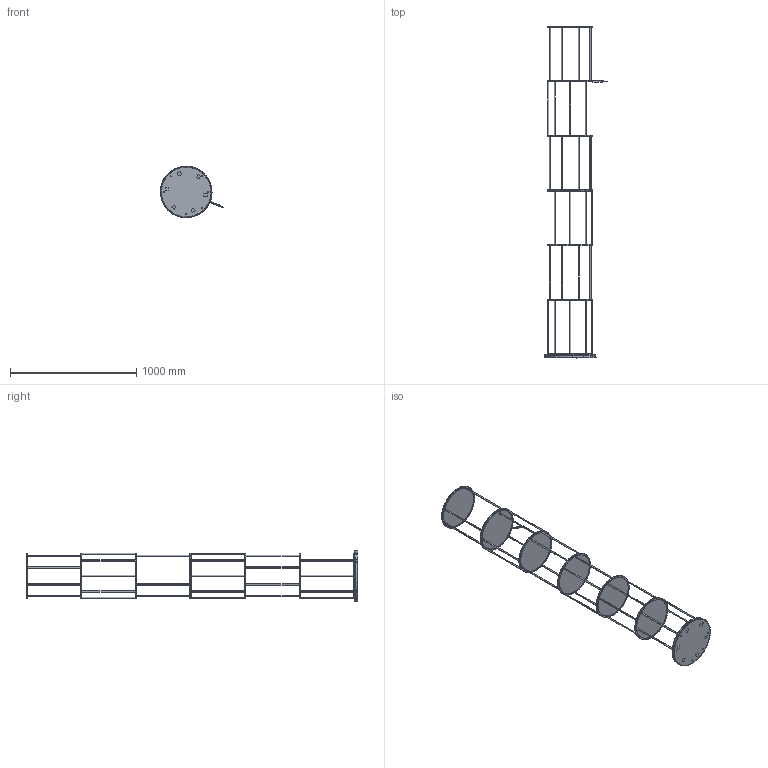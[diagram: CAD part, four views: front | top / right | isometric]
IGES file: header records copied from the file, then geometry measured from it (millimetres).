
Start section: SolidWorks IGES file using analytic representation for surfaces
Global section: file name: \\UTENTI\Dati Utenti\Tecnico\DC\2D - 3D per sito\3D\DeCastelli-3D-Babele 36 6 shelves.IGS; native system: SolidWorks 2022; preprocessor: SolidWorks 2022; author: Silviad; date: 240808.120334; units: millimetre
Bounding box: 499.94 x 2631.3 x 408.6 mm (x, y, z)
Surface area: 2761357.5 mm2 (no closed solid volume)
Topology: 0 solids, 0 shells, 397 faces, 9469 edges, 9467 vertices
Faces by surface type: revolution 304, bspline 93
